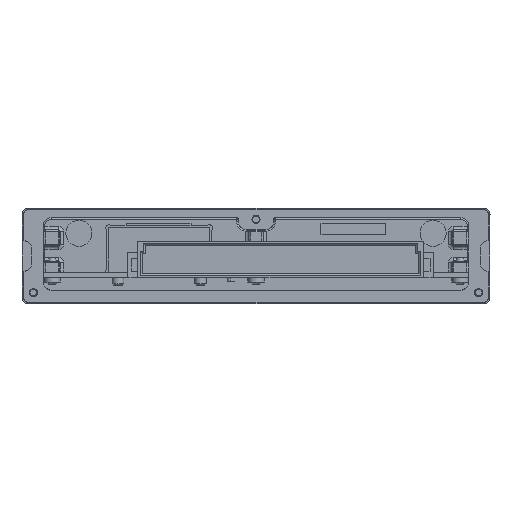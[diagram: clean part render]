
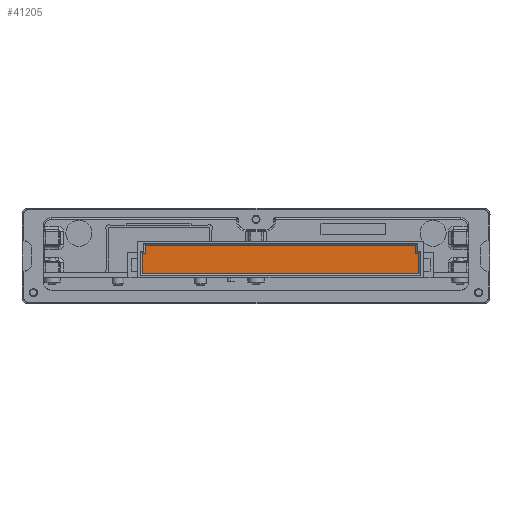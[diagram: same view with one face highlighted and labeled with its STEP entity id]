
A CAD part, left-side view. The second image highlights one B-rep face of the part: STEP entity #41205.
In plain terms, the highlighted free-form (B-spline) face has degree [1, 1] with [2, 2] control points.
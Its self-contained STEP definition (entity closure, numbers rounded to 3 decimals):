
#10088=DIRECTION('',(0.,-1.,0.));
#10089=VECTOR('',#10088,85.2);
#10090=CARTESIAN_POINT('',(-72.29,114.7,54.65));
#10091=LINE('',#10090,#10089);
#10092=DIRECTION('',(0.,0.,-1.));
#10093=VECTOR('',#10092,6.2);
#10094=CARTESIAN_POINT('',(-72.29,114.7,60.85));
#10095=LINE('',#10094,#10093);
#10096=DIRECTION('',(0.,1.,0.));
#10097=VECTOR('',#10096,1.);
#10098=CARTESIAN_POINT('',(-72.29,113.7,60.85));
#10099=LINE('',#10098,#10097);
#10100=DIRECTION('',(0.,0.,-1.));
#10101=VECTOR('',#10100,2.5);
#10102=CARTESIAN_POINT('',(-72.29,113.7,63.35));
#10103=LINE('',#10102,#10101);
#10104=DIRECTION('',(0.,1.,0.));
#10105=VECTOR('',#10104,83.2);
#10106=CARTESIAN_POINT('',(-72.29,30.5,63.35));
#10107=LINE('',#10106,#10105);
#10108=DIRECTION('',(0.,0.,1.));
#10109=VECTOR('',#10108,2.5);
#10110=CARTESIAN_POINT('',(-72.29,30.5,60.85));
#10111=LINE('',#10110,#10109);
#10112=DIRECTION('',(0.,1.,0.));
#10113=VECTOR('',#10112,1.);
#10114=CARTESIAN_POINT('',(-72.29,29.5,60.85));
#10115=LINE('',#10114,#10113);
#10116=DIRECTION('',(0.,0.,1.));
#10117=VECTOR('',#10116,6.2);
#10118=CARTESIAN_POINT('',(-72.29,29.5,54.65));
#10119=LINE('',#10118,#10117);
#14222=CARTESIAN_POINT('',(-72.29,114.7,54.65));
#14223=CARTESIAN_POINT('',(-72.29,29.5,54.65));
#14224=VERTEX_POINT('',#14222);
#14225=VERTEX_POINT('',#14223);
#14226=CARTESIAN_POINT('',(-72.29,29.5,60.85));
#14227=VERTEX_POINT('',#14226);
#14228=CARTESIAN_POINT('',(-72.29,30.5,60.85));
#14229=VERTEX_POINT('',#14228);
#14230=CARTESIAN_POINT('',(-72.29,30.5,63.35));
#14231=VERTEX_POINT('',#14230);
#14232=CARTESIAN_POINT('',(-72.29,113.7,63.35));
#14233=VERTEX_POINT('',#14232);
#14234=CARTESIAN_POINT('',(-72.29,113.7,60.85));
#14235=VERTEX_POINT('',#14234);
#14236=CARTESIAN_POINT('',(-72.29,114.7,60.85));
#14237=VERTEX_POINT('',#14236);
#41190=CARTESIAN_POINT('',(-72.29,27.796,54.476));
#41191=CARTESIAN_POINT('',(-72.29,116.404,54.476));
#41192=CARTESIAN_POINT('',(-72.29,27.796,63.524));
#41193=CARTESIAN_POINT('',(-72.29,116.404,63.524));
#41194=B_SPLINE_SURFACE_WITH_KNOTS('',1,1,((#41190,#41191),(#41192,#41193)),
.UNSPECIFIED.,.F.,.F.,.F.,(2,2),(2,2),(1.026,10.074),(-91.304,-2.696),
.UNSPECIFIED.);
#41195=ORIENTED_EDGE('',*,*,#41052,.F.);
#41196=ORIENTED_EDGE('',*,*,#41073,.F.);
#41197=ORIENTED_EDGE('',*,*,#41094,.F.);
#41198=ORIENTED_EDGE('',*,*,#41115,.F.);
#41199=ORIENTED_EDGE('',*,*,#41136,.F.);
#41200=ORIENTED_EDGE('',*,*,#41157,.F.);
#41201=ORIENTED_EDGE('',*,*,#41177,.F.);
#41202=ORIENTED_EDGE('',*,*,#41030,.F.);
#41203=EDGE_LOOP('',(#41195,#41196,#41197,#41198,#41199,#41200,#41201,#41202));
#41204=FACE_OUTER_BOUND('',#41203,.F.);
#41205=ADVANCED_FACE('',(#41204),#41194,.T.);
#41030=EDGE_CURVE('',#14225,#14227,#10119,.T.);
#41052=EDGE_CURVE('',#14224,#14225,#10091,.T.);
#41073=EDGE_CURVE('',#14237,#14224,#10095,.T.);
#41094=EDGE_CURVE('',#14235,#14237,#10099,.T.);
#41115=EDGE_CURVE('',#14233,#14235,#10103,.T.);
#41136=EDGE_CURVE('',#14231,#14233,#10107,.T.);
#41157=EDGE_CURVE('',#14229,#14231,#10111,.T.);
#41177=EDGE_CURVE('',#14227,#14229,#10115,.T.);
